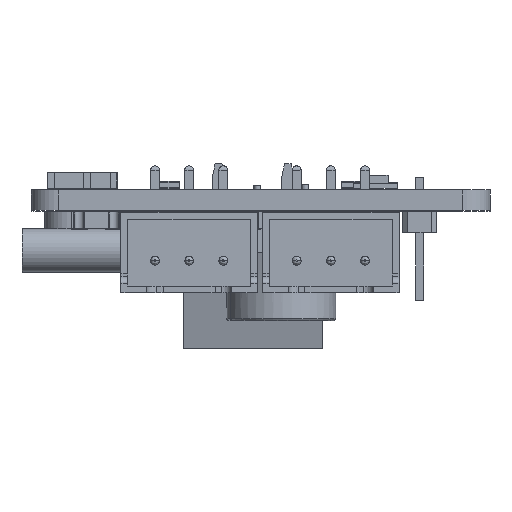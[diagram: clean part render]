
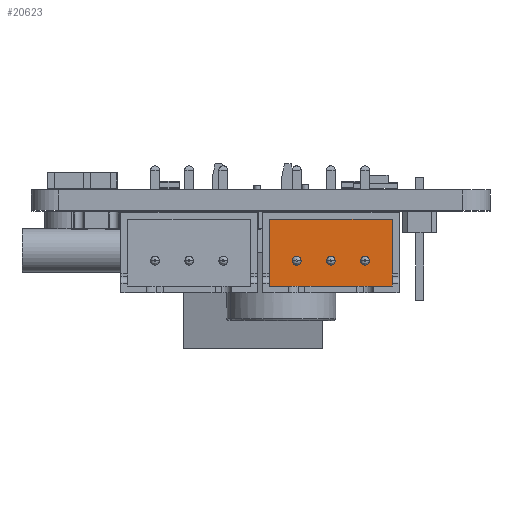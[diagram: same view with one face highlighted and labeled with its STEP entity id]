
A CAD part, left-side view. The second image highlights one B-rep face of the part: STEP entity #20623.
In plain terms, the highlighted planar face has unit normal (-1, 0, 0) as drawn and (0, 0, 1) by its records, which use the part's own axes.
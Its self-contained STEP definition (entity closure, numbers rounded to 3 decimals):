
#19612 = VERTEX_POINT('',#19613);
#19613 = CARTESIAN_POINT('',(-2.18,0.6,0.5));
#19619 = EDGE_CURVE('',#19612,#19620,#19622,.T.);
#19620 = VERTEX_POINT('',#19621);
#19621 = CARTESIAN_POINT('',(-2.82,0.6,0.5));
#19622 = CIRCLE('',#19623,0.32);
#19623 = AXIS2_PLACEMENT_3D('',#19624,#19625,#19626);
#19624 = CARTESIAN_POINT('',(-2.5,0.6,0.5));
#19625 = DIRECTION('',(0.,0.,1.));
#19626 = DIRECTION('',(-1.,0.,0.));
#19650 = VERTEX_POINT('',#19651);
#19651 = CARTESIAN_POINT('',(0.32,0.6,0.5));
#19657 = EDGE_CURVE('',#19650,#19658,#19660,.T.);
#19658 = VERTEX_POINT('',#19659);
#19659 = CARTESIAN_POINT('',(-0.32,0.6,0.5));
#19660 = CIRCLE('',#19661,0.32);
#19661 = AXIS2_PLACEMENT_3D('',#19662,#19663,#19664);
#19662 = CARTESIAN_POINT('',(0.,0.6,0.5));
#19663 = DIRECTION('',(0.,0.,1.));
#19664 = DIRECTION('',(-1.,0.,0.));
#19688 = VERTEX_POINT('',#19689);
#19689 = CARTESIAN_POINT('',(2.82,0.6,0.5));
#19695 = EDGE_CURVE('',#19688,#19696,#19698,.T.);
#19696 = VERTEX_POINT('',#19697);
#19697 = CARTESIAN_POINT('',(2.18,0.6,0.5));
#19698 = CIRCLE('',#19699,0.32);
#19699 = AXIS2_PLACEMENT_3D('',#19700,#19701,#19702);
#19700 = CARTESIAN_POINT('',(2.5,0.6,0.5));
#19701 = DIRECTION('',(0.,0.,1.));
#19702 = DIRECTION('',(-1.,0.,0.));
#20164 = EDGE_CURVE('',#20165,#20167,#20169,.T.);
#20165 = VERTEX_POINT('',#20166);
#20166 = CARTESIAN_POINT('',(4.5,2.45,0.5));
#20167 = VERTEX_POINT('',#20168);
#20168 = CARTESIAN_POINT('',(4.5,-2.45,0.5));
#20169 = LINE('',#20170,#20171);
#20170 = CARTESIAN_POINT('',(4.5,-2.95,0.5));
#20171 = VECTOR('',#20172,1.);
#20172 = DIRECTION('',(-0.,-1.,0.));
#20209 = EDGE_CURVE('',#20167,#20210,#20212,.T.);
#20210 = VERTEX_POINT('',#20211);
#20211 = CARTESIAN_POINT('',(-4.5,-2.45,0.5));
#20212 = LINE('',#20213,#20214);
#20213 = CARTESIAN_POINT('',(-5.,-2.45,0.5));
#20214 = VECTOR('',#20215,1.);
#20215 = DIRECTION('',(-1.,-0.,0.));
#20266 = EDGE_CURVE('',#20210,#20267,#20269,.T.);
#20267 = VERTEX_POINT('',#20268);
#20268 = CARTESIAN_POINT('',(-4.5,2.45,0.5));
#20269 = LINE('',#20270,#20271);
#20270 = CARTESIAN_POINT('',(-4.5,-2.95,0.5));
#20271 = VECTOR('',#20272,1.);
#20272 = DIRECTION('',(0.,1.,0.));
#20623 = ADVANCED_FACE('',(#20624,#20635,#20645,#20655),#20665,.F.);
#20624 = FACE_BOUND('',#20625,.T.);
#20625 = EDGE_LOOP('',(#20626,#20632,#20633,#20634));
#20626 = ORIENTED_EDGE('',*,*,#20627,.F.);
#20627 = EDGE_CURVE('',#20267,#20165,#20628,.T.);
#20628 = LINE('',#20629,#20630);
#20629 = CARTESIAN_POINT('',(0.,2.45,0.5));
#20630 = VECTOR('',#20631,1.);
#20631 = DIRECTION('',(1.,-0.,0.));
#20632 = ORIENTED_EDGE('',*,*,#20266,.F.);
#20633 = ORIENTED_EDGE('',*,*,#20209,.F.);
#20634 = ORIENTED_EDGE('',*,*,#20164,.F.);
#20635 = FACE_BOUND('',#20636,.T.);
#20636 = EDGE_LOOP('',(#20637,#20644));
#20637 = ORIENTED_EDGE('',*,*,#20638,.F.);
#20638 = EDGE_CURVE('',#19620,#19612,#20639,.T.);
#20639 = CIRCLE('',#20640,0.32);
#20640 = AXIS2_PLACEMENT_3D('',#20641,#20642,#20643);
#20641 = CARTESIAN_POINT('',(-2.5,0.6,0.5));
#20642 = DIRECTION('',(0.,0.,1.));
#20643 = DIRECTION('',(-1.,0.,0.));
#20644 = ORIENTED_EDGE('',*,*,#19619,.F.);
#20645 = FACE_BOUND('',#20646,.T.);
#20646 = EDGE_LOOP('',(#20647,#20654));
#20647 = ORIENTED_EDGE('',*,*,#20648,.F.);
#20648 = EDGE_CURVE('',#19658,#19650,#20649,.T.);
#20649 = CIRCLE('',#20650,0.32);
#20650 = AXIS2_PLACEMENT_3D('',#20651,#20652,#20653);
#20651 = CARTESIAN_POINT('',(0.,0.6,0.5));
#20652 = DIRECTION('',(0.,0.,1.));
#20653 = DIRECTION('',(-1.,0.,0.));
#20654 = ORIENTED_EDGE('',*,*,#19657,.F.);
#20655 = FACE_BOUND('',#20656,.T.);
#20656 = EDGE_LOOP('',(#20657,#20664));
#20657 = ORIENTED_EDGE('',*,*,#20658,.F.);
#20658 = EDGE_CURVE('',#19696,#19688,#20659,.T.);
#20659 = CIRCLE('',#20660,0.32);
#20660 = AXIS2_PLACEMENT_3D('',#20661,#20662,#20663);
#20661 = CARTESIAN_POINT('',(2.5,0.6,0.5));
#20662 = DIRECTION('',(0.,0.,1.));
#20663 = DIRECTION('',(-1.,0.,0.));
#20664 = ORIENTED_EDGE('',*,*,#19695,.F.);
#20665 = PLANE('',#20666);
#20666 = AXIS2_PLACEMENT_3D('',#20667,#20668,#20669);
#20667 = CARTESIAN_POINT('',(0.,0.,0.5));
#20668 = DIRECTION('',(0.,0.,-1.));
#20669 = DIRECTION('',(-1.,0.,-0.));
